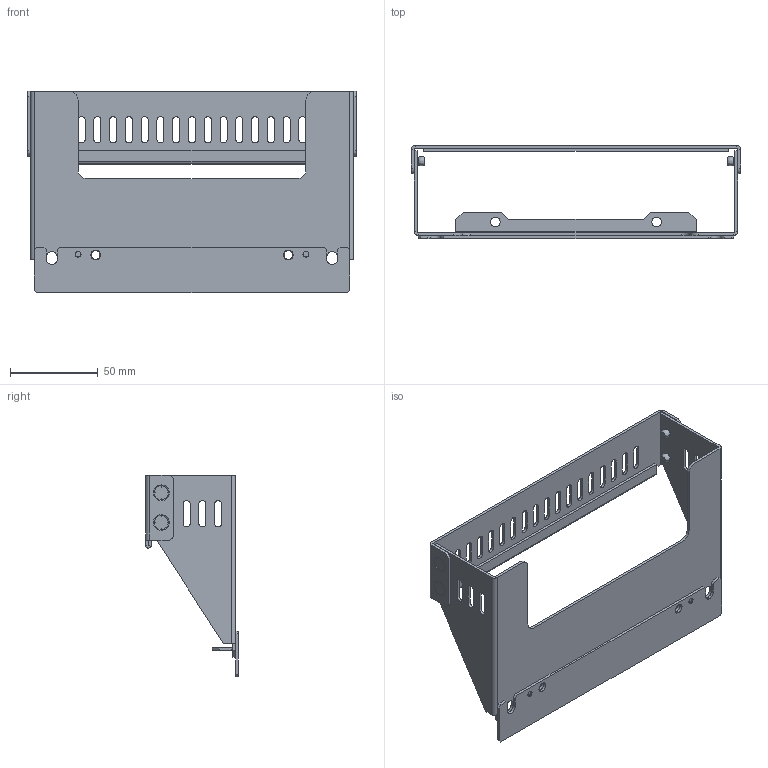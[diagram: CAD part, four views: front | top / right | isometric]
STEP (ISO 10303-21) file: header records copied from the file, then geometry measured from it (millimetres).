
FILE_DESCRIPTION((''),'2;1');
FILE_NAME('ZHZ-GA50V6_ASM','2020-10-19T',('anm'),('YASKAWA ELECTRIC CORCORATION'),'PRO/ENGINEER BY PARAMETRIC TECHNOLOGY CORPORATION, 2015440','PRO/ENGINEER BY PARAMETRIC TECHNOLOGY CORPORATION, 2015440','');
FILE_SCHEMA(('CONFIG_CONTROL_DESIGN'));
Length unit declared in the file: millimetre
Products named in the file (7): 400-125-063_1_1; 400-125-063_1_2; 400-125-063_1_ASM; 400-125-063_2; SK53BS_I2; 400-125-063_ASM; ZHZ-GA50V6_ASM
Assembly tree (9 placements, depth 4):
  ZHZ-GA50V6_ASM
    400-125-063_ASM
      400-125-063_1_ASM
        400-125-063_1_1
        400-125-063_1_2
      400-125-063_2
      SK53BS_I2  x4
Bounding box: 188 x 53 x 115 mm (x, y, z)
Volume: 52309.1 mm3; surface area: 70189.1 mm2
Topology: 7 solids, 7 shells, 313 faces, 805 edges, 510 vertices
Faces by surface type: plane 162, cylinder 119, bspline 16, cone 16
Entity records: 10255 total; most frequent: CARTESIAN_POINT 2728, DIRECTION 1555, ORIENTED_EDGE 1502, EDGE_CURVE 751, AXIS2_PLACEMENT_3D 523, VECTOR 509, LINE 509, VERTEX_POINT 480
